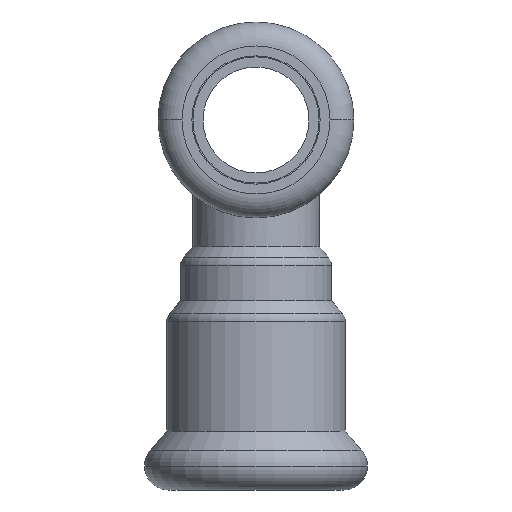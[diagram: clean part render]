
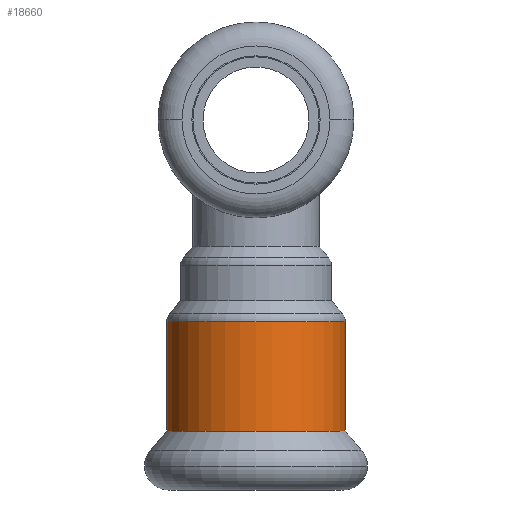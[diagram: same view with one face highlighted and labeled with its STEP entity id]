
A CAD part, front view. The second image highlights one B-rep face of the part: STEP entity #18660.
In plain terms, the highlighted cylindrical face has radius 10.625 mm (diameter 21.25 mm), a partial arc.
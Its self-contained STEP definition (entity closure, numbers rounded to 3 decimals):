
#800=CARTESIAN_POINT('',(-192.351,58.105,0.));
#810=VERTEX_POINT('',#800);
#990=CARTESIAN_POINT('',(-213.601,58.105,
0.));
#1000=VERTEX_POINT('',#990);
#1030=CARTESIAN_POINT('',(-202.976,58.105,0.));
#1040=DIRECTION('',(0.,1.,0.));
#1050=DIRECTION('',(-1.,0.,0.));
#1060=AXIS2_PLACEMENT_3D('',#1030,#1040,#1050);
#1070=CIRCLE('',#1060,10.625);
#1080=EDGE_CURVE('',#810,#1000,#1070,.T.);
#1130=CARTESIAN_POINT('',(-202.976,51.34,0.));
#1140=DIRECTION('',(0.,-1.,0.));
#1150=DIRECTION('',(-1.,0.,0.));
#1160=AXIS2_PLACEMENT_3D('',#1130,#1140,#1150);
#1170=CYLINDRICAL_SURFACE('',#1160,10.625);
#1180=CARTESIAN_POINT('',(-213.601,51.34,0.));
#1190=DIRECTION('',(0.,-1.,0.));
#1200=VECTOR('',#1190,1.);
#1210=LINE('',#1180,#1200);
#1220=CARTESIAN_POINT('',(-213.601,45.103,0.));
#1230=VERTEX_POINT('',#1220);
#1240=EDGE_CURVE('',#1000,#1230,#1210,.T.);
#1280=CARTESIAN_POINT('',(-192.351,51.34,
0.));
#1290=DIRECTION('',(0.,-1.,0.));
#1300=VECTOR('',#1290,1.);
#1310=LINE('',#1280,#1300);
#1320=CARTESIAN_POINT('',(-192.351,45.103,0.));
#1330=VERTEX_POINT('',#1320);
#1340=EDGE_CURVE('',#810,#1330,#1310,.T.);
#1360=CARTESIAN_POINT('',(-202.976,45.103,0.));
#1370=DIRECTION('',(0.,-1.,0.));
#1380=DIRECTION('',(-1.,0.,0.));
#1390=AXIS2_PLACEMENT_3D('',#1360,#1370,#1380);
#1400=CIRCLE('',#1390,10.625);
#18590=ORIENTED_EDGE('',*,*,#1240,.F.);
#18600=EDGE_CURVE('',#1230,#1330,#1400,.T.);
#18610=ORIENTED_EDGE('',*,*,#18600,.F.);
#18620=ORIENTED_EDGE('',*,*,#1340,.T.);
#18630=ORIENTED_EDGE('',*,*,#1080,.F.);
#18640=EDGE_LOOP('',(#18630,#18620,#18610,#18590));
#18650=FACE_OUTER_BOUND('',#18640,.T.);
#18660=ADVANCED_FACE('',(#18650),#1170,.T.);
